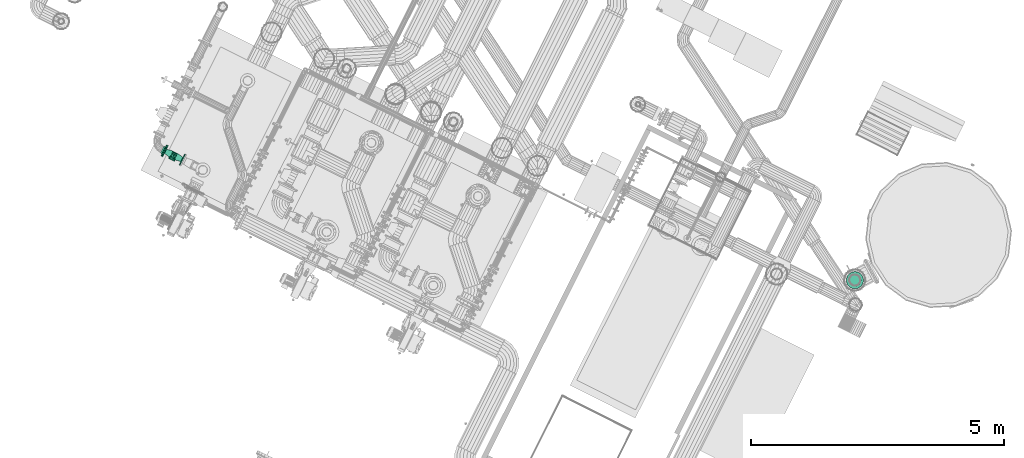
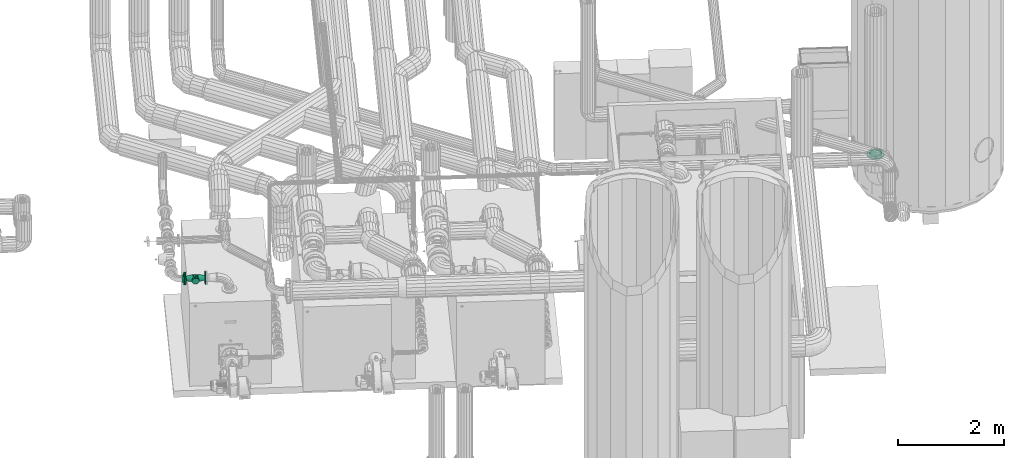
# One storey, part 99 of 206: 2 flow fittings, 1 flow controller.
"""IFC2X3 building model written with IfcOpenShell, lengths in metres."""

from ifc_helpers import new_model, si_unit, derived_unit, direction, frame, origin, place, context, subcontext, project, spatial, face_set, surface_model, source, transform, mapped, material, type_object, type_shapes, element, save


model = new_model("IFC2X3")

# Units and contexts
model_context = context("Model", 3, precision=5.2338327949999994e-05, world=origin(), true_north=direction((0.0, 1.0)))
body_context = subcontext(model_context, "Body", "Model", "MODEL_VIEW")
ifc_project = project(units=[si_unit("LENGTHUNIT", "METRE"), si_unit("AREAUNIT", "SQUARE_METRE"), si_unit("VOLUMEUNIT", "CUBIC_METRE"), si_unit("MASSUNIT", "GRAM", prefix="KILO"), si_unit("PLANEANGLEUNIT", "RADIAN"), derived_unit("THERMALTRANSMITTANCEUNIT", [(si_unit("MASSUNIT", "GRAM", prefix="KILO"), 1), (si_unit("THERMODYNAMICTEMPERATUREUNIT", "KELVIN"), -1), (si_unit("TIMEUNIT", "SECOND"), -3)])], contexts=[model_context])

# Site, building, storey
site_placement = place(None, frame((0.0, 0.0, 0.0), z_axis=(0.0, 0.0, 1.0), x_axis=(0.8939966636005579, -0.4480736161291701, 0.0)))
site = spatial("IfcSite", under=ifc_project, at=site_placement, Name="Default", CompositionType="ELEMENT")
building_placement = place(site_placement, origin())
building = spatial("IfcBuilding", under=site, at=building_placement, CompositionType="ELEMENT")
storey_placement = place(building_placement, origin())
storey = spatial("IfcBuildingStorey", under=building, at=storey_placement, Name="Erdgeschoss", CompositionType="ELEMENT", Elevation=0.0)

# Flow controller
ifc_material = material(Name="IfcSurfaceStyle #1741")
distribution_element_type_1 = type_object("IfcDistributionElementType", Name="Rückschlagklappe 308152:Rückschlagklappe 308152", material=ifc_material)
shared_shape_1 = source(origin(), body_context, "Body", "SurfaceModel", [
    surface_model("IfcFaceBasedSurfaceModel", [(20.595980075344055, 5.395961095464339, 2.479), (20.595980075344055, 5.353208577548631, 2.471461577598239), (20.617980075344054, 5.353208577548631, 2.471461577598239), (20.617980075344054, 5.395961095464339, 2.479), (20.595980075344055, 5.315612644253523, 2.449755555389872), (20.617980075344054, 5.315612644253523, 2.449755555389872), (20.595980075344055, 5.287707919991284, 2.4165000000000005), (20.617980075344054, 5.287707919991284, 2.4165000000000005), (20.595980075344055, 5.272860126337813, 2.3757060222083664), (20.617980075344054, 5.272860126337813, 2.3757060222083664), (20.595980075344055, 5.272860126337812, 2.3322939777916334), (20.617980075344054, 5.272860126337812, 2.3322939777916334), (20.595980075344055, 5.287707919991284, 2.2915000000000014), (20.617980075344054, 5.287707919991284, 2.2915000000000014), (20.595980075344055, 5.315612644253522, 2.2582444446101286), (20.617980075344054, 5.315612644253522, 2.2582444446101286), (20.595980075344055, 5.35320857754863, 2.236538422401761), (20.617980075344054, 5.35320857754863, 2.236538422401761), (20.595980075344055, 5.3959610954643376, 2.2290000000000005), (20.617980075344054, 5.3959610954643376, 2.2290000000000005), (20.595980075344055, 5.438713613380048, 2.236538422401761), (20.617980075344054, 5.438713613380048, 2.236538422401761), (20.595980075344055, 5.476309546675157, 2.2582444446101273), (20.617980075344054, 5.476309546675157, 2.2582444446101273), (20.595980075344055, 5.504214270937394, 2.2915), (20.617980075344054, 5.504214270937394, 2.2915), (20.595980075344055, 5.519062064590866, 2.332293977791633), (20.617980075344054, 5.519062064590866, 2.332293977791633), (20.595980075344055, 5.519062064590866, 2.3757060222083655), (20.617980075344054, 5.519062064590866, 2.3757060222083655), (20.595980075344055, 5.5042142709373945, 2.4165), (20.617980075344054, 5.5042142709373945, 2.4165), (20.595980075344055, 5.476309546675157, 2.44975555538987), (20.617980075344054, 5.476309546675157, 2.44975555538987), (20.595980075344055, 5.4387136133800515, 2.471461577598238), (20.617980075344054, 5.4387136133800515, 2.471461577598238), (20.595980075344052, 5.395961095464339, 2.354), (20.617980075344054, 5.395961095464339, 2.354), (20.617980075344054, 5.4425277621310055, 2.3539999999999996), (20.617980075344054, 5.439719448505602, 2.3699267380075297), (20.736646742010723, 5.461598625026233, 2.377890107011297), (20.736646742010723, 5.465811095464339, 2.353999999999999), (20.617980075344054, 5.431633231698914, 2.3839324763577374), (20.736646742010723, 5.449469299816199, 2.3988987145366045), (20.617980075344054, 5.419244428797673, 2.3943279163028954), (20.736646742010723, 5.430886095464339, 2.4144918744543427), (20.617980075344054, 5.40404731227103, 2.3998592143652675), (20.736646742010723, 5.408090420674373, 2.4227888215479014), (20.617980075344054, 5.387874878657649, 2.3998592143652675), (20.736646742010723, 5.383831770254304, 2.422788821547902), (20.617980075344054, 5.372677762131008, 2.394327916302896), (20.736646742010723, 5.361036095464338, 2.4144918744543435), (20.617980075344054, 5.360288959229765, 2.383932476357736), (20.736646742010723, 5.342452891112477, 2.3988987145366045), (20.617980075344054, 5.352202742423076, 2.3699267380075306), (20.736646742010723, 5.330323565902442, 2.3778901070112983), (20.617980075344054, 5.349394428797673, 2.3540000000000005), (20.736646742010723, 5.326111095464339, 2.3540000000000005), (20.617980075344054, 5.352202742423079, 2.338073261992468), (20.736646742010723, 5.330323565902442, 2.3301098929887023), (20.617980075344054, 5.360288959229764, 2.3240675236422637), (20.736646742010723, 5.342452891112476, 2.3091012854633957), (20.617980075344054, 5.3726777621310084, 2.313672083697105), (20.736646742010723, 5.361036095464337, 2.2935081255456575), (20.617980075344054, 5.387874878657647, 2.3081407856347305), (20.736646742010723, 5.383831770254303, 2.285211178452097), (20.617980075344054, 5.40404731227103, 2.308140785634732), (20.736646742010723, 5.408090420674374, 2.2852111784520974), (20.617980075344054, 5.419244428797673, 2.3136720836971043), (20.736646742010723, 5.430886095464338, 2.293508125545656), (20.617980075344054, 5.431633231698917, 2.324067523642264), (20.736646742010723, 5.449469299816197, 2.3091012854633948), (20.617980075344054, 5.439719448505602, 2.338073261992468), (20.736646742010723, 5.461598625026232, 2.330109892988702), (20.73664674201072, 5.395961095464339, 2.4238499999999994), (20.73664674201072, 5.372070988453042, 2.4196375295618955), (20.855313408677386, 5.372070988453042, 2.4196375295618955), (20.855313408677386, 5.395961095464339, 2.4238499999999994), (20.73664674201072, 5.3510623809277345, 2.4075082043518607), (20.855313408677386, 5.3510623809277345, 2.4075082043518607), (20.73664674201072, 5.335469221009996, 2.3889250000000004), (20.855313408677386, 5.335469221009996, 2.3889250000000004), (20.73664674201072, 5.327172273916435, 2.366129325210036), (20.855313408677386, 5.327172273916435, 2.366129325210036), (20.73664674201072, 5.327172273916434, 2.3418706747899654), (20.855313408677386, 5.327172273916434, 2.3418706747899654), (20.73664674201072, 5.335469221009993, 2.319075), (20.855313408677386, 5.335469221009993, 2.319075), (20.73664674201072, 5.3510623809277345, 2.3004917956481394), (20.855313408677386, 5.3510623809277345, 2.3004917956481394), (20.73664674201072, 5.372070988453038, 2.2883624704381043), (20.855313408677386, 5.372070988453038, 2.2883624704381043), (20.73664674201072, 5.395961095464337, 2.2841500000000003), (20.855313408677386, 5.395961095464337, 2.2841500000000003), (20.73664674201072, 5.419851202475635, 2.2883624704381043), (20.855313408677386, 5.419851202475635, 2.2883624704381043), (20.73664674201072, 5.4408598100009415, 2.300491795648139), (20.855313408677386, 5.4408598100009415, 2.300491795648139), (20.73664674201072, 5.456452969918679, 2.319074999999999), (20.855313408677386, 5.456452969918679, 2.319074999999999), (20.73664674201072, 5.46474991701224, 2.341870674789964), (20.855313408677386, 5.46474991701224, 2.341870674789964), (20.73664674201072, 5.464749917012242, 2.366129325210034), (20.855313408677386, 5.464749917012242, 2.366129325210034), (20.73664674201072, 5.456452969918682, 2.388924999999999), (20.855313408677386, 5.456452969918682, 2.388924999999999), (20.73664674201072, 5.4408598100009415, 2.4075082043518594), (20.855313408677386, 5.4408598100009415, 2.4075082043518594), (20.73664674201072, 5.419851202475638, 2.419637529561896), (20.855313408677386, 5.419851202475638, 2.419637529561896), (20.855313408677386, 5.465811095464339, 2.3539999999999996), (20.855313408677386, 5.461598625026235, 2.377890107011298), (20.973980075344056, 5.439719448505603, 2.369926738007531), (20.973980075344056, 5.442527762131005, 2.353999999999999), (20.855313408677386, 5.449469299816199, 2.3988987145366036), (20.973980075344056, 5.431633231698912, 2.3839324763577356), (20.855313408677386, 5.43088609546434, 2.414491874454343), (20.973980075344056, 5.419244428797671, 2.3943279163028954), (20.855313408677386, 5.408090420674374, 2.4227888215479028), (20.973980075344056, 5.404047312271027, 2.3998592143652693), (20.855313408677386, 5.383831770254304, 2.422788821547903), (20.973980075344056, 5.387874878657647, 2.3998592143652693), (20.855313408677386, 5.361036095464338, 2.414491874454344), (20.973980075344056, 5.372677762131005, 2.394327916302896), (20.855313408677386, 5.342452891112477, 2.3988987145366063), (20.973980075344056, 5.360288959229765, 2.383932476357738), (20.855313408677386, 5.330323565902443, 2.3778901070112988), (20.973980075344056, 5.352202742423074, 2.369926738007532), (20.855313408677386, 5.326111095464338, 2.3540000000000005), (20.973980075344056, 5.349394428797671, 2.354), (20.855313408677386, 5.3303235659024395, 2.3301098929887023), (20.973980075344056, 5.352202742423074, 2.3380732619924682), (20.855313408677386, 5.342452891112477, 2.309101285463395), (20.973980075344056, 5.360288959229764, 2.324067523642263), (20.855313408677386, 5.361036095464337, 2.293508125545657), (20.973980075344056, 5.372677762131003, 2.3136720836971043), (20.855313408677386, 5.383831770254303, 2.285211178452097), (20.973980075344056, 5.387874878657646, 2.3081407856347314), (20.855313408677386, 5.408090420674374, 2.285211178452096), (20.973980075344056, 5.404047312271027, 2.3081407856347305), (20.855313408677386, 5.430886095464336, 2.2935081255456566), (20.973980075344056, 5.41924442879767, 2.3136720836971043), (20.855313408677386, 5.449469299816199, 2.309101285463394), (20.973980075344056, 5.431633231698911, 2.324067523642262), (20.855313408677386, 5.461598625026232, 2.330109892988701), (20.973980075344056, 5.439719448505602, 2.338073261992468), (20.795980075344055, 5.395961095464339, 2.42385), (20.772089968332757, 5.395961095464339, 2.419637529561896), (20.772089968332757, 5.292961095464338, 2.419637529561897), (20.795980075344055, 5.292961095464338, 2.4238500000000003), (20.75108136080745, 5.3959610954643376, 2.4075082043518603), (20.75108136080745, 5.292961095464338, 2.407508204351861), (20.735488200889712, 5.39596109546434, 2.388925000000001), (20.735488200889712, 5.292961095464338, 2.3889250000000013), (20.72719125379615, 5.3959610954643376, 2.366129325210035), (20.72719125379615, 5.292961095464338, 2.366129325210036), (20.72719125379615, 5.3959610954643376, 2.3418706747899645), (20.72719125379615, 5.292961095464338, 2.341870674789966), (20.735488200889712, 5.395961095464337, 2.3190749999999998), (20.735488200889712, 5.292961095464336, 2.3190750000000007), (20.75108136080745, 5.395961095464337, 2.300491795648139), (20.75108136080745, 5.292961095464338, 2.3004917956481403), (20.772089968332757, 5.395961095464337, 2.2883624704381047), (20.772089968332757, 5.292961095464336, 2.288362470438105), (20.795980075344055, 5.395961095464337, 2.2841500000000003), (20.795980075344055, 5.292961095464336, 2.284150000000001), (20.81987018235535, 5.395961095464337, 2.2883624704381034), (20.81987018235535, 5.292961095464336, 2.2883624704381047), (20.840878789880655, 5.395961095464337, 2.300491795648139), (20.840878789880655, 5.292961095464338, 2.3004917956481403), (20.856471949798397, 5.395961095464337, 2.3190749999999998), (20.856471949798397, 5.292961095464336, 2.3190750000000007), (20.864768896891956, 5.395961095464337, 2.3418706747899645), (20.864768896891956, 5.292961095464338, 2.341870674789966), (20.864768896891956, 5.3959610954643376, 2.366129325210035), (20.864768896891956, 5.292961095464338, 2.366129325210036), (20.856471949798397, 5.39596109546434, 2.388925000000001), (20.856471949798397, 5.292961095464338, 2.3889250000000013), (20.840878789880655, 5.3959610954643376, 2.4075082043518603), (20.840878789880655, 5.292961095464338, 2.4075082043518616), (20.81987018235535, 5.39596109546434, 2.419637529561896), (20.81987018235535, 5.292961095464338, 2.419637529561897), (20.795980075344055, 5.292961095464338, 2.354000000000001), (20.973980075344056, 5.270961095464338, 2.354000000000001), (20.973980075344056, 5.278499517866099, 2.3112474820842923), (20.99598007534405, 5.278499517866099, 2.3112474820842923), (20.99598007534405, 5.270961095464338, 2.354000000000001), (20.973980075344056, 5.300205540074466, 2.273651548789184), (20.99598007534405, 5.300205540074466, 2.273651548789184), (20.973980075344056, 5.333461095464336, 2.2457468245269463), (20.99598007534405, 5.333461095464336, 2.2457468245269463), (20.973980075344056, 5.374255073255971, 2.230899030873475), (20.99598007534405, 5.374255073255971, 2.230899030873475), (20.973980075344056, 5.417667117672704, 2.230899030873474), (20.99598007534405, 5.417667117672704, 2.230899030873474), (20.973980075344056, 5.458461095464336, 2.245746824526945), (20.99598007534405, 5.458461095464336, 2.245746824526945), (20.973980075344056, 5.49171665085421, 2.2736515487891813), (20.99598007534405, 5.49171665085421, 2.2736515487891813), (20.973980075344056, 5.513422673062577, 2.311247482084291), (20.99598007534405, 5.513422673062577, 2.311247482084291), (20.973980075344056, 5.5209610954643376, 2.3539999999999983), (20.99598007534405, 5.5209610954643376, 2.3539999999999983), (20.973980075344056, 5.513422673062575, 2.396752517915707), (20.99598007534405, 5.513422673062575, 2.396752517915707), (20.973980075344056, 5.49171665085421, 2.4343484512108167), (20.99598007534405, 5.49171665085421, 2.4343484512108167), (20.973980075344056, 5.45846109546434, 2.462253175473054), (20.99598007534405, 5.45846109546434, 2.462253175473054), (20.973980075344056, 5.417667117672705, 2.4771009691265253), (20.99598007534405, 5.417667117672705, 2.4771009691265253), (20.973980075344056, 5.3742550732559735, 2.477100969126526), (20.99598007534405, 5.3742550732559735, 2.477100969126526), (20.973980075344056, 5.33346109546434, 2.4622531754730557), (20.99598007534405, 5.33346109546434, 2.4622531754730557), (20.973980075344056, 5.300205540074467, 2.4343484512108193), (20.99598007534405, 5.300205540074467, 2.4343484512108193), (20.973980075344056, 5.278499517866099, 2.39675251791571), (20.99598007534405, 5.278499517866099, 2.39675251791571), (20.973980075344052, 5.3959610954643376, 2.354), (20.995980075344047, 5.3959610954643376, 2.354)], [face_set([[[0, 1, 2, 3]], [[1, 4, 5, 2]], [[4, 6, 7, 5]], [[6, 8, 9, 7]], [[8, 10, 11, 9]], [[10, 12, 13, 11]], [[12, 14, 15, 13]], [[14, 16, 17, 15]], [[16, 18, 19, 17]], [[18, 20, 21, 19]], [[20, 22, 23, 21]], [[22, 24, 25, 23]], [[24, 26, 27, 25]], [[26, 28, 29, 27]], [[28, 30, 31, 29]], [[30, 32, 33, 31]], [[32, 34, 35, 33]], [[34, 0, 3, 35]], [[36, 1, 0]], [[36, 4, 1]], [[36, 6, 4]], [[36, 8, 6]], [[36, 10, 8]], [[36, 12, 10]], [[36, 14, 12]], [[36, 16, 14]], [[36, 18, 16]], [[36, 20, 18]], [[36, 22, 20]], [[36, 24, 22]], [[36, 26, 24]], [[36, 28, 26]], [[36, 30, 28]], [[36, 32, 30]], [[36, 34, 32]], [[36, 0, 34]], [[37, 35, 3]], [[37, 33, 35]], [[37, 31, 33]], [[37, 29, 31]], [[37, 27, 29]], [[37, 25, 27]], [[37, 23, 25]], [[37, 21, 23]], [[37, 19, 21]], [[37, 17, 19]], [[37, 15, 17]], [[37, 13, 15]], [[37, 11, 13]], [[37, 9, 11]], [[37, 7, 9]], [[37, 5, 7]], [[37, 2, 5]], [[37, 3, 2]], [[38, 39, 40, 41]], [[39, 42, 43, 40]], [[42, 44, 45, 43]], [[44, 46, 47, 45]], [[46, 48, 49, 47]], [[48, 50, 51, 49]], [[50, 52, 53, 51]], [[52, 54, 55, 53]], [[54, 56, 57, 55]], [[56, 58, 59, 57]], [[58, 60, 61, 59]], [[60, 62, 63, 61]], [[62, 64, 65, 63]], [[64, 66, 67, 65]], [[66, 68, 69, 67]], [[68, 70, 71, 69]], [[70, 72, 73, 71]], [[72, 38, 41, 73]], [[74, 75, 76, 77]], [[75, 78, 79, 76]], [[78, 80, 81, 79]], [[80, 82, 83, 81]], [[82, 84, 85, 83]], [[84, 86, 87, 85]], [[86, 88, 89, 87]], [[88, 90, 91, 89]], [[90, 92, 93, 91]], [[92, 94, 95, 93]], [[94, 96, 97, 95]], [[96, 98, 99, 97]], [[98, 100, 101, 99]], [[100, 102, 103, 101]], [[102, 104, 105, 103]], [[104, 106, 107, 105]], [[106, 108, 109, 107]], [[108, 74, 77, 109]], [[110, 111, 112, 113]], [[111, 114, 115, 112]], [[114, 116, 117, 115]], [[116, 118, 119, 117]], [[118, 120, 121, 119]], [[120, 122, 123, 121]], [[122, 124, 125, 123]], [[124, 126, 127, 125]], [[126, 128, 129, 127]], [[128, 130, 131, 129]], [[130, 132, 133, 131]], [[132, 134, 135, 133]], [[134, 136, 137, 135]], [[136, 138, 139, 137]], [[138, 140, 141, 139]], [[140, 142, 143, 141]], [[142, 144, 145, 143]], [[144, 110, 113, 145]], [[146, 147, 148, 149]], [[147, 150, 151, 148]], [[150, 152, 153, 151]], [[152, 154, 155, 153]], [[154, 156, 157, 155]], [[156, 158, 159, 157]], [[158, 160, 161, 159]], [[160, 162, 163, 161]], [[162, 164, 165, 163]], [[164, 166, 167, 165]], [[166, 168, 169, 167]], [[168, 170, 171, 169]], [[170, 172, 173, 171]], [[172, 174, 175, 173]], [[174, 176, 177, 175]], [[176, 178, 179, 177]], [[178, 180, 181, 179]], [[180, 146, 149, 181]], [[182, 181, 149]], [[182, 179, 181]], [[182, 177, 179]], [[182, 175, 177]], [[182, 173, 175]], [[182, 171, 173]], [[182, 169, 171]], [[182, 167, 169]], [[182, 165, 167]], [[182, 163, 165]], [[182, 161, 163]], [[182, 159, 161]], [[182, 157, 159]], [[182, 155, 157]], [[182, 153, 155]], [[182, 151, 153]], [[182, 148, 151]], [[182, 149, 148]], [[183, 184, 185, 186]], [[184, 187, 188, 185]], [[187, 189, 190, 188]], [[189, 191, 192, 190]], [[191, 193, 194, 192]], [[193, 195, 196, 194]], [[195, 197, 198, 196]], [[197, 199, 200, 198]], [[199, 201, 202, 200]], [[201, 203, 204, 202]], [[203, 205, 206, 204]], [[205, 207, 208, 206]], [[207, 209, 210, 208]], [[209, 211, 212, 210]], [[211, 213, 214, 212]], [[213, 215, 216, 214]], [[215, 217, 218, 216]], [[217, 183, 186, 218]], [[219, 184, 183]], [[219, 187, 184]], [[219, 189, 187]], [[219, 191, 189]], [[219, 193, 191]], [[219, 195, 193]], [[219, 197, 195]], [[219, 199, 197]], [[219, 201, 199]], [[219, 203, 201]], [[219, 205, 203]], [[219, 207, 205]], [[219, 209, 207]], [[219, 211, 209]], [[219, 213, 211]], [[219, 215, 213]], [[219, 217, 215]], [[219, 183, 217]], [[220, 218, 186]], [[220, 216, 218]], [[220, 214, 216]], [[220, 212, 214]], [[220, 210, 212]], [[220, 208, 210]], [[220, 206, 208]], [[220, 204, 206]], [[220, 202, 204]], [[220, 200, 202]], [[220, 198, 200]], [[220, 196, 198]], [[220, 194, 196]], [[220, 192, 194]], [[220, 190, 192]], [[220, 188, 190]], [[220, 185, 188]], [[220, 186, 185]]])]),
])
type_shapes(distribution_element_type_1, [shared_shape_1])
flow_controller_placement = place(storey_placement, origin())
element("IfcFlowController", 1, at=flow_controller_placement, inside=storey, type_object=distribution_element_type_1, material=ifc_material, Name="Rückschlagklappe", ObjectType="Rückschlagklappe", context=body_context, shape_type="MappedRepresentation", body=[
    mapped(shared_shape_1, transform((0.0, 0.0, 0.0), scale=1.0)),
])

# Flow fittings
distribution_element_type_2 = type_object("IfcDistributionElementType", Name="Flansch 311584:Flansch 311584", material=ifc_material)
shared_shape_2 = source(origin(), body_context, "Body", "SurfaceModel", [
    surface_model("IfcFaceBasedSurfaceModel", [(20.595980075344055, 5.395961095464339, 2.479), (20.595980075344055, 5.438713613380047, 2.471461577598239), (20.573980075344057, 5.438713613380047, 2.471461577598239), (20.573980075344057, 5.395961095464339, 2.479), (20.595980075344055, 5.476309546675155, 2.4497555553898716), (20.573980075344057, 5.476309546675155, 2.4497555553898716), (20.595980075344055, 5.504214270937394, 2.4165), (20.573980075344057, 5.504214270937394, 2.4165), (20.595980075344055, 5.519062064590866, 2.3757060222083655), (20.573980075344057, 5.519062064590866, 2.3757060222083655), (20.595980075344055, 5.519062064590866, 2.332293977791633), (20.573980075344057, 5.519062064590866, 2.332293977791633), (20.595980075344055, 5.5042142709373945, 2.291499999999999), (20.573980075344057, 5.5042142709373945, 2.291499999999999), (20.595980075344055, 5.476309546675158, 2.2582444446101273), (20.573980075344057, 5.476309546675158, 2.2582444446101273), (20.595980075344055, 5.43871361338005, 2.23653842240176), (20.573980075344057, 5.43871361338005, 2.23653842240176), (20.595980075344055, 5.395961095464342, 2.229), (20.573980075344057, 5.395961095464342, 2.229), (20.595980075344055, 5.353208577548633, 2.236538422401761), (20.573980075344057, 5.353208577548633, 2.236538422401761), (20.595980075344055, 5.315612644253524, 2.258244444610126), (20.573980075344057, 5.315612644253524, 2.258244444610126), (20.595980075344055, 5.287707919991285, 2.2915), (20.573980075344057, 5.287707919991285, 2.2915), (20.595980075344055, 5.272860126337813, 2.332293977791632), (20.573980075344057, 5.272860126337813, 2.332293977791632), (20.595980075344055, 5.272860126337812, 2.3757060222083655), (20.573980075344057, 5.272860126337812, 2.3757060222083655), (20.595980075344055, 5.287707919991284, 2.4165), (20.573980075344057, 5.287707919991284, 2.4165), (20.595980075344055, 5.315612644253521, 2.4497555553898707), (20.573980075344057, 5.315612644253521, 2.4497555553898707), (20.595980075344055, 5.353208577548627, 2.4714615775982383), (20.573980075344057, 5.353208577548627, 2.4714615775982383), (20.573980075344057, 5.395961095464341, 2.354), (20.573980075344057, 5.473961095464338, 2.353999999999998), (20.573980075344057, 5.469257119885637, 2.327322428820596), (20.540980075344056, 5.461598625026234, 2.3301098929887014), (20.540980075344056, 5.465811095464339, 2.3539999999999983), (20.573980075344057, 5.4557125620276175, 2.303862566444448), (20.540980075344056, 5.4494692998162, 2.3091012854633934), (20.573980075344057, 5.434961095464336, 2.286450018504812), (20.540980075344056, 5.430886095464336, 2.293508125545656), (20.573980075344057, 5.4095056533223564, 2.277184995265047), (20.540980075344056, 5.40809042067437, 2.2852111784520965), (20.573980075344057, 5.382416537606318, 2.2771849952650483), (20.540980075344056, 5.383831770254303, 2.2852111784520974), (20.573980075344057, 5.356961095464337, 2.2864500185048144), (20.540980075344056, 5.361036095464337, 2.2935081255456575), (20.573980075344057, 5.336209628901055, 2.30386256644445), (20.540980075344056, 5.342452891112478, 2.3091012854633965), (20.573980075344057, 5.322665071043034, 2.3273224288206), (20.540980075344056, 5.330323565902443, 2.330109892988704), (20.573980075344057, 5.3179610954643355, 2.3540000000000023), (20.540980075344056, 5.326111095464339, 2.3540000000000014), (20.573980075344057, 5.322665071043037, 2.380677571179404), (20.540980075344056, 5.330323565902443, 2.3778901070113), (20.573980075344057, 5.336209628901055, 2.404137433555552), (20.540980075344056, 5.342452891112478, 2.398898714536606), (20.573980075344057, 5.356961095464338, 2.421549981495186), (20.540980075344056, 5.361036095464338, 2.4144918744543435), (20.573980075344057, 5.382416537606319, 2.4308150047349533), (20.540980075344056, 5.383831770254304, 2.422788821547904), (20.573980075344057, 5.4095056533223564, 2.4308150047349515), (20.540980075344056, 5.4080904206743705, 2.422788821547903), (20.573980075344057, 5.43496109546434, 2.4215499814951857), (20.540980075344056, 5.430886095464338, 2.4144918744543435), (20.573980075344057, 5.4557125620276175, 2.404137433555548), (20.540980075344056, 5.4494692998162, 2.398898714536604), (20.573980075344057, 5.46925711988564, 2.3806775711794), (20.540980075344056, 5.461598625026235, 2.377890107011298)], [face_set([[[0, 1, 2, 3]], [[1, 4, 5, 2]], [[4, 6, 7, 5]], [[6, 8, 9, 7]], [[8, 10, 11, 9]], [[10, 12, 13, 11]], [[12, 14, 15, 13]], [[14, 16, 17, 15]], [[16, 18, 19, 17]], [[18, 20, 21, 19]], [[20, 22, 23, 21]], [[22, 24, 25, 23]], [[24, 26, 27, 25]], [[26, 28, 29, 27]], [[28, 30, 31, 29]], [[30, 32, 33, 31]], [[32, 34, 35, 33]], [[34, 0, 3, 35]], [[36, 35, 3]], [[36, 33, 35]], [[36, 31, 33]], [[36, 29, 31]], [[36, 27, 29]], [[36, 25, 27]], [[36, 23, 25]], [[36, 21, 23]], [[36, 19, 21]], [[36, 17, 19]], [[36, 15, 17]], [[36, 13, 15]], [[36, 11, 13]], [[36, 9, 11]], [[36, 7, 9]], [[36, 5, 7]], [[36, 2, 5]], [[36, 3, 2]], [[37, 38, 39, 40]], [[38, 41, 42, 39]], [[41, 43, 44, 42]], [[43, 45, 46, 44]], [[45, 47, 48, 46]], [[47, 49, 50, 48]], [[49, 51, 52, 50]], [[51, 53, 54, 52]], [[53, 55, 56, 54]], [[55, 57, 58, 56]], [[57, 59, 60, 58]], [[59, 61, 62, 60]], [[61, 63, 64, 62]], [[63, 65, 66, 64]], [[65, 67, 68, 66]], [[67, 69, 70, 68]], [[69, 71, 72, 70]], [[71, 37, 40, 72]]])]),
])
type_shapes(distribution_element_type_2, [shared_shape_2])
flow_fitting_1_placement = place(storey_placement, origin())
element("IfcFlowFitting", 2, at=flow_fitting_1_placement, inside=storey, type_object=distribution_element_type_2, material=ifc_material, Name="Flansch", ObjectType="Flansch", context=body_context, shape_type="MappedRepresentation", body=[
    mapped(shared_shape_2, transform((0.0, 0.0, 0.0), scale=1.0)),
])
distribution_element_type_3 = type_object("IfcDistributionElementType", Name="Flansch 350519:Flansch 350519", material=ifc_material)
shared_shape_3 = source(origin(), body_context, "Body", "SurfaceModel", [
    surface_model("IfcFaceBasedSurfaceModel", [(33.82927002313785, 9.080507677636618, 1.9944096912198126), (33.8827787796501, 9.055556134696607, 1.9944096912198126), (33.8827787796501, 9.055556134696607, 2.018409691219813), (33.82927002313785, 9.080507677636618, 2.018409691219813), (33.94159449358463, 9.050410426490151, 1.9944096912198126), (33.94159449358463, 9.050410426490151, 2.018409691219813), (33.998623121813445, 9.065691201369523, 1.9944096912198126), (33.998623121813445, 9.065691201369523, 2.018409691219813), (34.04698617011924, 9.09955537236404, 1.9944096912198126), (34.04698617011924, 9.09955537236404, 2.018409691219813), (34.08085034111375, 9.147918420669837, 1.9944096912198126), (34.08085034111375, 9.147918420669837, 2.018409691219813), (34.096131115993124, 9.204947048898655, 1.9944096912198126), (34.096131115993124, 9.204947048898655, 2.018409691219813), (34.09098540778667, 9.263762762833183, 1.9944096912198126), (34.09098540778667, 9.263762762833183, 2.018409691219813), (34.066033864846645, 9.317271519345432, 1.9944096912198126), (34.066033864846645, 9.317271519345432, 2.018409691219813), (34.024286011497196, 9.359019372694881, 1.9944096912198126), (34.024286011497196, 9.359019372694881, 2.018409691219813), (33.97077725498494, 9.383970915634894, 1.9944096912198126), (33.97077725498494, 9.383970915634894, 2.018409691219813), (33.91196154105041, 9.389116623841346, 1.9944096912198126), (33.91196154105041, 9.389116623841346, 2.018409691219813), (33.8549329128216, 9.373835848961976, 1.9944096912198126), (33.8549329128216, 9.373835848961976, 2.018409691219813), (33.80656986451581, 9.33997167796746, 1.9944096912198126), (33.80656986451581, 9.33997167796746, 2.018409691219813), (33.77270569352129, 9.291608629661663, 1.9944096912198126), (33.77270569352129, 9.291608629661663, 2.018409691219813), (33.757424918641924, 9.234580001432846, 1.9944096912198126), (33.757424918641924, 9.234580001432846, 2.018409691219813), (33.76257062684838, 9.175764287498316, 1.9944096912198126), (33.76257062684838, 9.175764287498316, 2.018409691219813), (33.787522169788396, 9.122255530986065, 1.9944096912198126), (33.787522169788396, 9.122255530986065, 2.018409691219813), (33.92677801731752, 9.21976352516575, 2.0184096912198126), (33.83052765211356, 9.287158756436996, 2.018409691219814), (33.81328173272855, 9.250174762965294, 2.018409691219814), (33.82096084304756, 9.248117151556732, 2.0564096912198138), (33.83703991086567, 9.282598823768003, 2.056409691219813), (33.80972514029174, 9.209522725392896, 2.018409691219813), (33.81764488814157, 9.210215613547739, 2.0564096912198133), (33.82028685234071, 9.170105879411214, 2.018409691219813), (33.827491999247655, 9.17346569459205, 2.056409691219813), (33.8436929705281, 9.136678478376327, 2.0184096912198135), (33.84931446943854, 9.142299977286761, 2.0564096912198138), (33.877120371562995, 9.11327236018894, 2.0184096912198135), (33.88048018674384, 9.12047750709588, 2.0564096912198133), (33.91653721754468, 9.10271064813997, 2.018409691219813), (33.917230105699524, 9.110630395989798, 2.056409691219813), (33.95718925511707, 9.106267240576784, 2.018409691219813), (33.95513164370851, 9.113946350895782, 2.056409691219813), (33.99417324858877, 9.1235131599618, 2.0184096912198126), (33.98961331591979, 9.130025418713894, 2.0564096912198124), (34.02302838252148, 9.152368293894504, 2.018409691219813), (34.016516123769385, 9.156928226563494, 2.0564096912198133), (34.0402743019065, 9.18935228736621, 2.018409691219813), (34.0325951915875, 9.191409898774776, 2.056409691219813), (34.0438308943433, 9.230004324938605, 2.018409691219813), (34.03591114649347, 9.229311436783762, 2.056409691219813), (34.03326918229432, 9.269421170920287, 2.0184096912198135), (34.02606403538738, 9.266061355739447, 2.0564096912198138), (34.00986306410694, 9.302848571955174, 2.018409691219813), (34.00424156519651, 9.297227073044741, 2.056409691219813), (33.976435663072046, 9.32625469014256, 2.018409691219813), (33.97307584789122, 9.319049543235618, 2.056409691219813), (33.93701881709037, 9.336816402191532, 2.018409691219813), (33.93632592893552, 9.328896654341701, 2.0564096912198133), (33.89636677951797, 9.333259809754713, 2.018409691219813), (33.898424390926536, 9.325580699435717, 2.056409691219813), (33.859382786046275, 9.316013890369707, 2.018409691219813), (33.863942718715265, 9.309501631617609, 2.0564096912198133)], [face_set([[[0, 1, 2, 3]], [[1, 4, 5, 2]], [[4, 6, 7, 5]], [[6, 8, 9, 7]], [[8, 10, 11, 9]], [[10, 12, 13, 11]], [[12, 14, 15, 13]], [[14, 16, 17, 15]], [[16, 18, 19, 17]], [[18, 20, 21, 19]], [[20, 22, 23, 21]], [[22, 24, 25, 23]], [[24, 26, 27, 25]], [[26, 28, 29, 27]], [[28, 30, 31, 29]], [[30, 32, 33, 31]], [[32, 34, 35, 33]], [[34, 0, 3, 35]], [[36, 35, 3]], [[36, 33, 35]], [[36, 31, 33]], [[36, 29, 31]], [[36, 27, 29]], [[36, 25, 27]], [[36, 23, 25]], [[36, 21, 23]], [[36, 19, 21]], [[36, 17, 19]], [[36, 15, 17]], [[36, 13, 15]], [[36, 11, 13]], [[36, 9, 11]], [[36, 7, 9]], [[36, 5, 7]], [[36, 2, 5]], [[36, 3, 2]], [[37, 38, 39, 40]], [[38, 41, 42, 39]], [[41, 43, 44, 42]], [[43, 45, 46, 44]], [[45, 47, 48, 46]], [[47, 49, 50, 48]], [[49, 51, 52, 50]], [[51, 53, 54, 52]], [[53, 55, 56, 54]], [[55, 57, 58, 56]], [[57, 59, 60, 58]], [[59, 61, 62, 60]], [[61, 63, 64, 62]], [[63, 65, 66, 64]], [[65, 67, 68, 66]], [[67, 69, 70, 68]], [[69, 71, 72, 70]], [[71, 37, 40, 72]]])]),
])
type_shapes(distribution_element_type_3, [shared_shape_3])
flow_fitting_2_placement = place(storey_placement, origin())
element("IfcFlowFitting", 3, at=flow_fitting_2_placement, inside=storey, type_object=distribution_element_type_3, material=ifc_material, Name="Flansch", ObjectType="Flansch", context=body_context, shape_type="MappedRepresentation", body=[
    mapped(shared_shape_3, transform((0.0, 0.0, 0.0), scale=1.0)),
])

save(model, "model.ifc")
